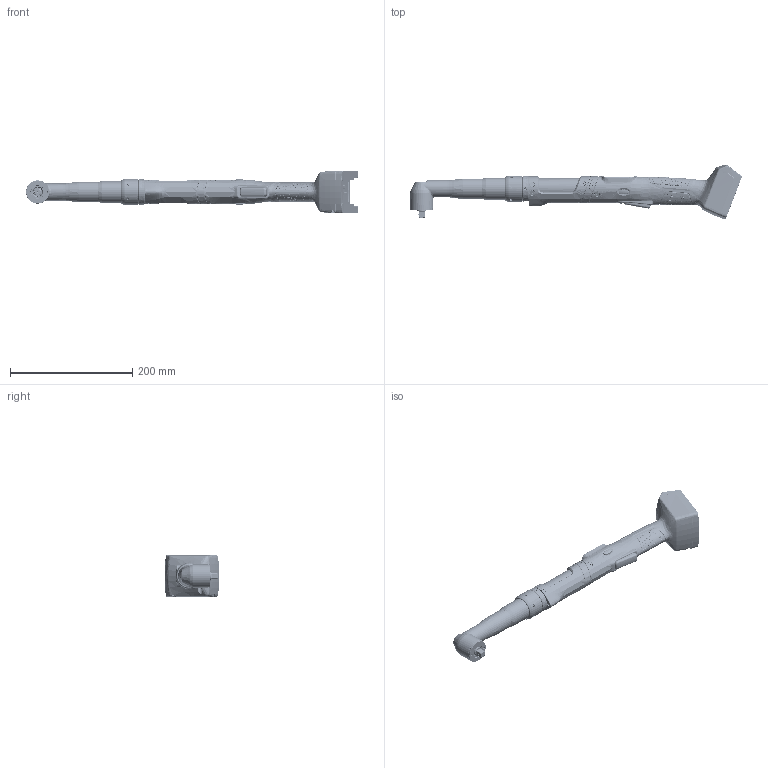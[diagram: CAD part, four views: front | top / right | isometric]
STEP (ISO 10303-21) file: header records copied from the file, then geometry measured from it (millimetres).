
FILE_DESCRIPTION((''),'2;1');
FILE_NAME('ASM0003_ASM','2019-12-09T',('A1X81'),(''),'CREO PARAMETRIC BY PTC INC, 2016050','CREO PARAMETRIC BY PTC INC, 2016050','');
FILE_SCHEMA(('CONFIG_CONTROL_DESIGN'));
Products named in the file (66): T50-3000249_SKEL_1_1_2; T50-3000229_SKEL_1_1_2; T50-1000607_1_1_2; T50-1000623_INSTALL_1_1_2; T50-3000229_ASM_1_1_2_ASM; T50-1000349-1_1_1_2; T50-1000349-2_1_1_2; T50-1000349-3_1_1_2; T50-1000349-4_1_1_2; T50-1000349-5_1_1_2; T50-1000349_ASM_1_1_2_ASM; T50-1000257_1_1_2; 207914PT_1_1_2; T50-3000139_ASM_1_1_2_ASM; T50-1000642_1_1_2; WP154A4_CELLTEK_RA_INSTALLED__2; T55-1000072_INSTALL_CELLTEK_R_2_ASM; T50-1000616_4_1_2; M30X226S_1_1_2; T50-1000616_ASM_1_1_2_ASM; T50-1000721_1_1_2; T50-3000280_SKEL_1_1_2; T50-1000680-1_1_1_2; T50-1000631_1_1_2; T50-1000630-1_INSTALL_1_1_2; T50-1000630-2_INSTALL_1_1_2; T50-1000630-3_1_1_2; T50-1000630-5_1_1_2; T50-1000630-4_1_1_2; T50-1000630-6_1_1_2; T50-1000630-7_1_1_2; T50-1000630-11_1_1_2; T50-1000630-8_INSTALL_1_1_2; T50-1000630-10_1_1_2; T50-1000630-9_1_1_2; T50-1000630-12_INSTALL_1_1_2; T50-1000630_INSTALL_ASM_1_1_2_ASM; T50-3000280_ASM_1_1_2_ASM; T50-1000604_1_1_2; T50-1000615_3_1_2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
Assembly tree (83 placements, depth 6):
  ASM0003_ASM
    CTBAW653_ASM_3_ASM
      T50-3000249_ASM_5_1_2_ASM
        T50-3000249_SKEL_1_1_2
        T50-3000229_ASM_1_1_2_ASM
          T50-3000229_SKEL_1_1_2
          T50-1000607_1_1_2
          T50-1000623_INSTALL_1_1_2
        T50-1000349_ASM_1_1_2_ASM
          T50-1000349-1_1_1_2
          T50-1000349-2_1_1_2
          T50-1000349-3_1_1_2
          T50-1000349-4_1_1_2
          T50-1000349-5_1_1_2
        T50-3000139_ASM_1_1_2_ASM  x2
          T50-1000257_1_1_2
          207914PT_1_1_2
        T50-1000642_1_1_2
        T55-1000072_INSTALL_CELLTEK_R_2_ASM
          WP154A4_CELLTEK_RA_INSTALLED__2
        T50-1000616_ASM_1_1_2_ASM
          T50-1000616_4_1_2
          M30X226S_1_1_2  x5
        T50-1000721_1_1_2  x2
        T50-3000280_ASM_1_1_2_ASM
          T50-3000280_SKEL_1_1_2
          T50-1000680-1_1_1_2
          T50-1000631_1_1_2
          T50-1000630_INSTALL_ASM_1_1_2_ASM
            T50-1000630-1_INSTALL_1_1_2
            T50-1000630-2_INSTALL_1_1_2
            T50-1000630-3_1_1_2
            T50-1000630-5_1_1_2
            T50-1000630-4_1_1_2
            T50-1000630-6_1_1_2
            T50-1000630-7_1_1_2
            T50-1000630-11_1_1_2
            T50-1000630-8_INSTALL_1_1_2
            T50-1000630-10_1_1_2
            T50-1000630-9_1_1_2
            T50-1000630-12_INSTALL_1_1_2
        T50-1000604_1_1_2
        T50-1000615_3_1_2
        T50-3000341_ASM_1_1_2_ASM
          T50-1000637_1_1_2
        843280_1_1_2
        T50-1000327-3_1_1_2  x5
        931791_1_1_2  x2
        T50-1001028_1_1_2  x8
      T50-1000722_INSTALLED_2_1_2
      T50-1000832_1_1_2
      T50-3000347_ASM_1_ASM
        T50-1000695_1_1
        T50-1000610_1_1_2
        T50-1000915-1_1_1_2
        T50-1000915-2_1_1_2
        T50-1000915-3_1_1_2
        936430PT_ASM_1_ASM
          936435PT-1_2
          936438PT_1
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Bounding box: 542.91 x 89.71 x 69.68 mm (x, y, z)
Volume: 123223.5 mm3; surface area: 269542.9 mm2
Topology: 67 solids, 71 shells, 13358 faces, 32791 edges, 19100 vertices
Faces by surface type: bspline 4254, cylinder 4150, plane 2257, sphere 936, torus 887, cone 615, extrusion 259
Entity records: 634661 total; most frequent: CARTESIAN_POINT 381023, ORIENTED_EDGE 60274, DIRECTION 40826, EDGE_CURVE 30231, VERTEX_POINT 17932, AXIS2_PLACEMENT_3D 15977, B_SPLINE_CURVE_WITH_KNOTS 14366, EDGE_LOOP 13000
